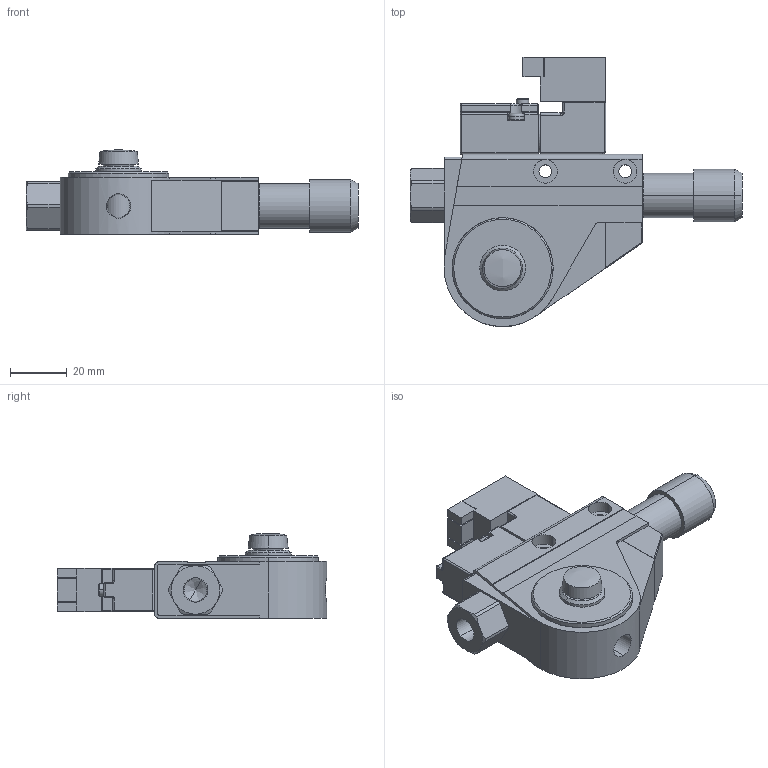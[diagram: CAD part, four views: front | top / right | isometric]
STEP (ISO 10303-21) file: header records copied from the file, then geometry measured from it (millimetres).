
FILE_DESCRIPTION( (''), '2;1');
FILE_NAME ('WS50.18440.CVF-2-####B#_15504.stp','2020-11-09T14:40:02',(''),(''),'spGate 14.4.8','','');
FILE_SCHEMA (('AUTOMOTIVE_DESIGN'));
Length unit declared in the file: millimetre
Products named in the file (15): Assembly; CVF-2_z___^_C; _c_M_e; P5142_d_____1; MSS-01; _J_K_~_C_^Assy; _v___O_u___b_N_1; P5142_d_____2; P5142_d_____3; P5142_d_____4; P5142_d_____5; _v___O_u___b_N_2; _v___O_u___b_N_3; _v___O_u___b_N_4; _v___O_u___b_N_5
Assembly tree (14 placements, depth 2):
  Assembly
    CVF-2_z___^_C
    _c_M_e
    P5142_d_____1
    MSS-01
    _J_K_~_C_^Assy
    _v___O_u___b_N_1
    P5142_d_____2
    P5142_d_____3
    P5142_d_____4
    P5142_d_____5
    _v___O_u___b_N_2
    _v___O_u___b_N_3
    _v___O_u___b_N_4
    _v___O_u___b_N_5
Bounding box: 116.5 x 94.5 x 29.8 mm (x, y, z)
Volume: 88421.5 mm3; surface area: 32295.9 mm2
Topology: 14 solids, 14 shells, 465 faces, 1103 edges, 696 vertices
Faces by surface type: plane 211, cylinder 187, bspline 58, sphere 9
Entity records: 23389 total; most frequent: CARTESIAN_POINT 3490, DIRECTION 2196, ORIENTED_EDGE 2186, COLOUR_RGB 1572, PRESENTATION_STYLE_ASSIGNMENT 1572, STYLED_ITEM 1572, EDGE_CURVE 1093, DRAUGHTING_PRE_DEFINED_CURVE_FONT 1093
